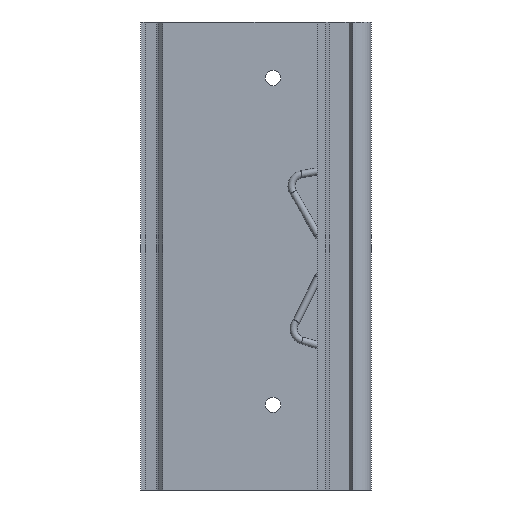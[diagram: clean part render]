
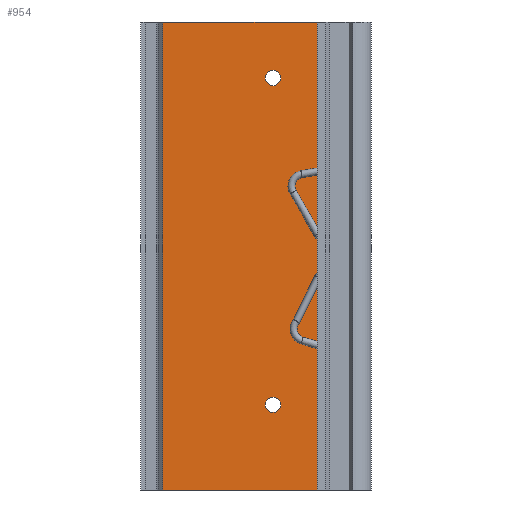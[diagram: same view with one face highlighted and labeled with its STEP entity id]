
A CAD part, left-side view. The second image highlights one B-rep face of the part: STEP entity #954.
In plain terms, the highlighted planar face has unit normal (-1, 0, 0).
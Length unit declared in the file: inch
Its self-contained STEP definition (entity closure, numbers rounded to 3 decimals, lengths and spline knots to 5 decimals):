
#142=DIRECTION('',(0.,1.,0.));
#143=VECTOR('',#142,1.3025);
#144=CARTESIAN_POINT('',(-0.08,0.455,0.));
#145=LINE('',#144,#143);
#248=DIRECTION('',(0.,0.,1.));
#249=VECTOR('',#248,3.937);
#250=CARTESIAN_POINT('',(-0.08,1.7575,0.));
#251=LINE('',#250,#249);
#252=DIRECTION('',(0.,0.,1.));
#253=VECTOR('',#252,3.937);
#254=CARTESIAN_POINT('',(-0.08,0.455,0.));
#255=LINE('',#254,#253);
#256=CARTESIAN_POINT('',(-0.08,0.828,0.717));
#257=DIRECTION('',(-1.,0.,0.));
#258=DIRECTION('',(0.,1.,0.));
#259=AXIS2_PLACEMENT_3D('',#256,#257,#258);
#261=CARTESIAN_POINT('',(-0.08,0.828,0.717));
#262=DIRECTION('',(-1.,0.,0.));
#263=DIRECTION('',(0.,-1.,0.));
#264=AXIS2_PLACEMENT_3D('',#261,#262,#263);
#266=CARTESIAN_POINT('',(-0.08,0.828,3.467));
#267=DIRECTION('',(-1.,0.,0.));
#268=DIRECTION('',(0.,1.,0.));
#269=AXIS2_PLACEMENT_3D('',#266,#267,#268);
#271=CARTESIAN_POINT('',(-0.08,0.828,3.467));
#272=DIRECTION('',(-1.,0.,0.));
#273=DIRECTION('',(0.,-1.,0.));
#274=AXIS2_PLACEMENT_3D('',#271,#272,#273);
#340=DIRECTION('',(0.,1.,0.));
#341=VECTOR('',#340,1.3025);
#342=CARTESIAN_POINT('',(-0.08,0.455,3.937));
#343=LINE('',#342,#341);
#499=CARTESIAN_POINT('',(-0.08,0.455,0.));
#500=VERTEX_POINT('',#499);
#511=CARTESIAN_POINT('',(-0.08,0.455,3.937));
#512=VERTEX_POINT('',#511);
#517=CARTESIAN_POINT('',(-0.08,1.7575,0.));
#519=VERTEX_POINT('',#517);
#525=CARTESIAN_POINT('',(-0.08,1.7575,3.937));
#527=VERTEX_POINT('',#525);
#581=CARTESIAN_POINT('',(-0.08,0.89296,3.467));
#582=CARTESIAN_POINT('',(-0.08,0.76304,3.467));
#583=VERTEX_POINT('',#581);
#584=VERTEX_POINT('',#582);
#601=CARTESIAN_POINT('',(-0.08,0.89296,0.717));
#602=CARTESIAN_POINT('',(-0.08,0.76304,0.717));
#603=VERTEX_POINT('',#601);
#604=VERTEX_POINT('',#602);
#929=CARTESIAN_POINT('',(-0.08,0.455,3.937));
#930=DIRECTION('',(1.,0.,0.));
#931=DIRECTION('',(0.,1.,0.));
#932=AXIS2_PLACEMENT_3D('',#929,#930,#931);
#933=PLANE('',#932);
#935=ORIENTED_EDGE('',*,*,#934,.T.);
#937=ORIENTED_EDGE('',*,*,#936,.F.);
#938=ORIENTED_EDGE('',*,*,#921,.F.);
#939=ORIENTED_EDGE('',*,*,#733,.T.);
#940=EDGE_LOOP('',(#935,#937,#938,#939));
#941=FACE_OUTER_BOUND('',#940,.F.);
#943=ORIENTED_EDGE('',*,*,#942,.T.);
#945=ORIENTED_EDGE('',*,*,#944,.T.);
#946=EDGE_LOOP('',(#943,#945));
#947=FACE_BOUND('',#946,.F.);
#949=ORIENTED_EDGE('',*,*,#948,.T.);
#951=ORIENTED_EDGE('',*,*,#950,.T.);
#952=EDGE_LOOP('',(#949,#951));
#953=FACE_BOUND('',#952,.F.);
#954=ADVANCED_FACE('',(#941,#947,#953),#933,.F.);
#260=CIRCLE('',#259,0.06496);
#265=CIRCLE('',#264,0.06496);
#270=CIRCLE('',#269,0.06496);
#275=CIRCLE('',#274,0.06496);
#733=EDGE_CURVE('',#500,#519,#145,.T.);
#921=EDGE_CURVE('',#500,#512,#255,.T.);
#934=EDGE_CURVE('',#519,#527,#251,.T.);
#936=EDGE_CURVE('',#512,#527,#343,.T.);
#942=EDGE_CURVE('',#603,#604,#260,.T.);
#944=EDGE_CURVE('',#604,#603,#265,.T.);
#948=EDGE_CURVE('',#583,#584,#270,.T.);
#950=EDGE_CURVE('',#584,#583,#275,.T.);
